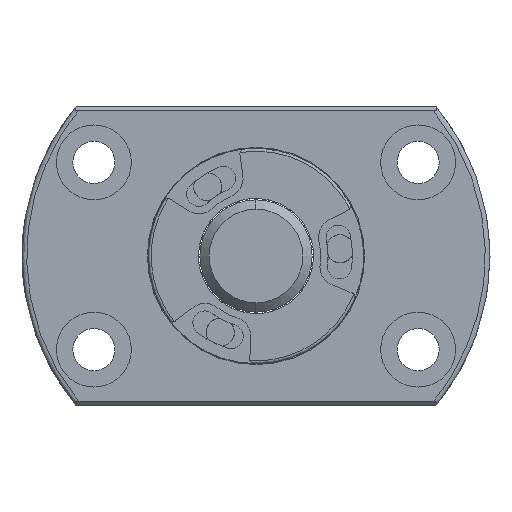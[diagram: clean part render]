
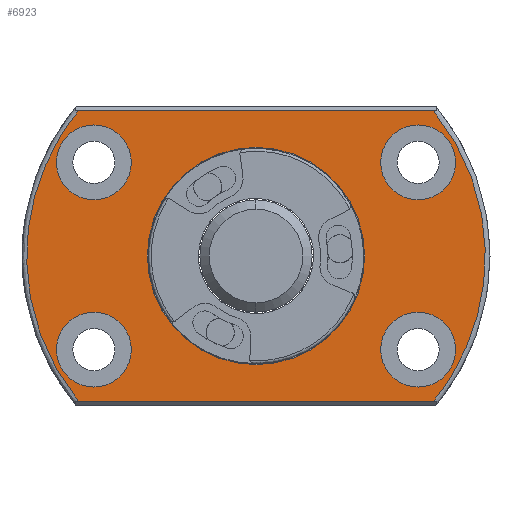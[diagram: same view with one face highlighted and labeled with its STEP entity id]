
A CAD part, left-side view. The second image highlights one B-rep face of the part: STEP entity #6923.
In plain terms, the highlighted planar face has unit normal (-1, 0, 0).
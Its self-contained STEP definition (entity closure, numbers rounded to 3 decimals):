
#85 = EDGE_LOOP ( 'NONE', ( #6823, #7057 ) ) ;
#99 = DIRECTION ( 'NONE',  ( 0., 0., -1. ) ) ;
#135 = EDGE_CURVE ( 'NONE', #4668, #1715, #649, .T. ) ;
#165 = EDGE_LOOP ( 'NONE', ( #788, #5120 ) ) ;
#378 = VECTOR ( 'NONE', #5955, 1000. ) ;
#464 = CARTESIAN_POINT ( 'NONE',  ( 0., -26.668, 6.081 ) ) ;
#478 = AXIS2_PLACEMENT_3D ( 'NONE', #3899, #516, #6748 ) ;
#516 = DIRECTION ( 'NONE',  ( -1., 0., 0. ) ) ;
#552 = DIRECTION ( 'NONE',  ( 0., 0., 1. ) ) ;
#566 = VERTEX_POINT ( 'NONE', #1877 ) ;
#601 =( BOUNDED_CURVE ( )  B_SPLINE_CURVE ( 3, ( #5501, #464, #3780, #4419 ),
 .UNSPECIFIED., .F., .T. ) 
 B_SPLINE_CURVE_WITH_KNOTS ( ( 4, 4 ),
 ( 0., 1. ),
 .UNSPECIFIED. ) 
 CURVE ( )  GEOMETRIC_REPRESENTATION_ITEM ( )  RATIONAL_B_SPLINE_CURVE ( ( 1., 0.85, 0.85, 1. ) ) 
 REPRESENTATION_ITEM ( '' )  );
#649 = CIRCLE ( 'NONE', #6416, 4. ) ;
#744 = CIRCLE ( 'NONE', #5074, 4. ) ;
#775 = AXIS2_PLACEMENT_3D ( 'NONE', #3427, #5736, #3471 ) ;
#788 = ORIENTED_EDGE ( 'NONE', *, *, #3067, .T. ) ;
#812 = CARTESIAN_POINT ( 'NONE',  ( 0., -17.321, 14. ) ) ;
#883 = VERTEX_POINT ( 'NONE', #6830 ) ;
#930 = CARTESIAN_POINT ( 'NONE',  ( 0., -17.321, -10. ) ) ;
#936 = ORIENTED_EDGE ( 'NONE', *, *, #5468, .F. ) ;
#1035 = ORIENTED_EDGE ( 'NONE', *, *, #2969, .T. ) ;
#1101 = VERTEX_POINT ( 'NONE', #2043 ) ;
#1118 = AXIS2_PLACEMENT_3D ( 'NONE', #2019, #4887, #4305 ) ;
#1152 = AXIS2_PLACEMENT_3D ( 'NONE', #6181, #4594, #552 ) ;
#1228 = DIRECTION ( 'NONE',  ( 0., 0., 1. ) ) ;
#1366 =( BOUNDED_CURVE ( )  B_SPLINE_CURVE ( 3, ( #4878, #3220, #4907, #4960 ),
 .UNSPECIFIED., .F., .F. ) 
 B_SPLINE_CURVE_WITH_KNOTS ( ( 4, 4 ),
 ( 0., 1. ),
 .UNSPECIFIED. ) 
 CURVE ( )  GEOMETRIC_REPRESENTATION_ITEM ( )  RATIONAL_B_SPLINE_CURVE ( ( 1., 0.85, 0.85, 1. ) ) 
 REPRESENTATION_ITEM ( '' )  );
#1386 = EDGE_CURVE ( 'NONE', #3975, #2026, #4088, .T. ) ;
#1409 = AXIS2_PLACEMENT_3D ( 'NONE', #2798, #5702, #2846 ) ;
#1468 = DIRECTION ( 'NONE',  ( 0., 0., 1. ) ) ;
#1493 = CARTESIAN_POINT ( 'NONE',  ( 0., 0., 0. ) ) ;
#1527 = CARTESIAN_POINT ( 'NONE',  ( 0., -17.321, -14. ) ) ;
#1715 = VERTEX_POINT ( 'NONE', #812 ) ;
#1722 = AXIS2_PLACEMENT_3D ( 'NONE', #2384, #2411, #99 ) ;
#1751 = VERTEX_POINT ( 'NONE', #2011 ) ;
#1781 = VERTEX_POINT ( 'NONE', #2635 ) ;
#1820 = ORIENTED_EDGE ( 'NONE', *, *, #4244, .F. ) ;
#1877 = CARTESIAN_POINT ( 'NONE',  ( 0., -17.321, -6. ) ) ;
#1910 = CIRCLE ( 'NONE', #1409, 4. ) ;
#1964 = FACE_BOUND ( 'NONE', #3361, .T. ) ;
#1978 = DIRECTION ( 'NONE',  ( -1., 0., 0. ) ) ;
#2011 = CARTESIAN_POINT ( 'NONE',  ( 0., 17.321, -14. ) ) ;
#2019 = CARTESIAN_POINT ( 'NONE',  ( 0., -17.321, -10. ) ) ;
#2022 = DIRECTION ( 'NONE',  ( 1., 0., 0. ) ) ;
#2026 = VERTEX_POINT ( 'NONE', #3420 ) ;
#2043 = CARTESIAN_POINT ( 'NONE',  ( 0., 17.321, 14. ) ) ;
#2102 = ORIENTED_EDGE ( 'NONE', *, *, #3066, .T. ) ;
#2109 = CARTESIAN_POINT ( 'NONE',  ( 0., 17.321, -10. ) ) ;
#2234 = AXIS2_PLACEMENT_3D ( 'NONE', #2721, #3861, #3359 ) ;
#2262 = EDGE_CURVE ( 'NONE', #4936, #6698, #4771, .T. ) ;
#2320 = AXIS2_PLACEMENT_3D ( 'NONE', #1493, #1978, #1468 ) ;
#2374 = VERTEX_POINT ( 'NONE', #4821 ) ;
#2384 = CARTESIAN_POINT ( 'NONE',  ( 0., 0., 0. ) ) ;
#2411 = DIRECTION ( 'NONE',  ( 1., 0., 0. ) ) ;
#2422 = EDGE_CURVE ( 'NONE', #4898, #566, #6681, .T. ) ;
#2632 = LINE ( 'NONE', #3982, #4201 ) ;
#2635 = CARTESIAN_POINT ( 'NONE',  ( 0., 17.321, 6. ) ) ;
#2721 = CARTESIAN_POINT ( 'NONE',  ( 0., 17.321, 10. ) ) ;
#2759 = FACE_BOUND ( 'NONE', #4247, .T. ) ;
#2798 = CARTESIAN_POINT ( 'NONE',  ( 0., 17.321, -10. ) ) ;
#2846 = DIRECTION ( 'NONE',  ( 0., 0., 1. ) ) ;
#2924 = PLANE ( 'NONE',  #1722 ) ;
#2939 = ORIENTED_EDGE ( 'NONE', *, *, #2262, .F. ) ;
#2969 = EDGE_CURVE ( 'NONE', #1101, #1781, #4241, .T. ) ;
#2979 = CIRCLE ( 'NONE', #1118, 4. ) ;
#3066 = EDGE_CURVE ( 'NONE', #1781, #1101, #3888, .T. ) ;
#3067 = EDGE_CURVE ( 'NONE', #1715, #4668, #7095, .T. ) ;
#3069 = CIRCLE ( 'NONE', #478, 11.6 ) ;
#3110 = CARTESIAN_POINT ( 'NONE',  ( 0., 0., -15.5 ) ) ;
#3220 = CARTESIAN_POINT ( 'NONE',  ( 0., 26.668, -6.081 ) ) ;
#3311 = ORIENTED_EDGE ( 'NONE', *, *, #3767, .F. ) ;
#3359 = DIRECTION ( 'NONE',  ( 0., 0., 1. ) ) ;
#3361 = EDGE_LOOP ( 'NONE', ( #5733, #4075 ) ) ;
#3420 = CARTESIAN_POINT ( 'NONE',  ( 0., 18.974, -15.5 ) ) ;
#3427 = CARTESIAN_POINT ( 'NONE',  ( 0., 17.321, 10. ) ) ;
#3471 = DIRECTION ( 'NONE',  ( 0., 0., 1. ) ) ;
#3614 = CARTESIAN_POINT ( 'NONE',  ( 0., -18.974, -15.5 ) ) ;
#3637 = FACE_BOUND ( 'NONE', #85, .T. ) ;
#3767 = EDGE_CURVE ( 'NONE', #5477, #883, #2632, .T. ) ;
#3780 = CARTESIAN_POINT ( 'NONE',  ( 0., -26.668, -6.081 ) ) ;
#3861 = DIRECTION ( 'NONE',  ( 1., 0., 0. ) ) ;
#3888 = CIRCLE ( 'NONE', #775, 4. ) ;
#3897 = FACE_BOUND ( 'NONE', #165, .T. ) ;
#3899 = CARTESIAN_POINT ( 'NONE',  ( 0., 0., 0. ) ) ;
#3916 = DIRECTION ( 'NONE',  ( 0., -1., 0. ) ) ;
#3975 = VERTEX_POINT ( 'NONE', #3614 ) ;
#3982 = CARTESIAN_POINT ( 'NONE',  ( 0., 0., 15.5 ) ) ;
#4004 = EDGE_LOOP ( 'NONE', ( #1035, #2102 ) ) ;
#4039 = EDGE_CURVE ( 'NONE', #566, #4898, #2979, .T. ) ;
#4043 = DIRECTION ( 'NONE',  ( 1., 0., 0. ) ) ;
#4075 = ORIENTED_EDGE ( 'NONE', *, *, #4425, .T. ) ;
#4088 = LINE ( 'NONE', #3110, #378 ) ;
#4201 = VECTOR ( 'NONE', #3916, 1000. ) ;
#4241 = CIRCLE ( 'NONE', #2234, 4. ) ;
#4244 = EDGE_CURVE ( 'NONE', #6698, #4936, #3069, .T. ) ;
#4247 = EDGE_LOOP ( 'NONE', ( #1820, #2939 ) ) ;
#4305 = DIRECTION ( 'NONE',  ( 0., 0., 1. ) ) ;
#4313 = ORIENTED_EDGE ( 'NONE', *, *, #1386, .F. ) ;
#4408 = EDGE_LOOP ( 'NONE', ( #3311, #936, #4313, #6660 ) ) ;
#4419 = CARTESIAN_POINT ( 'NONE',  ( 0., -18.974, -15.5 ) ) ;
#4425 = EDGE_CURVE ( 'NONE', #1751, #2374, #1910, .T. ) ;
#4594 = DIRECTION ( 'NONE',  ( 1., 0., 0. ) ) ;
#4668 = VERTEX_POINT ( 'NONE', #5361 ) ;
#4771 = CIRCLE ( 'NONE', #2320, 11.6 ) ;
#4821 = CARTESIAN_POINT ( 'NONE',  ( 0., 17.321, -6. ) ) ;
#4878 = CARTESIAN_POINT ( 'NONE',  ( 0., 18.974, -15.5 ) ) ;
#4887 = DIRECTION ( 'NONE',  ( 1., 0., 0. ) ) ;
#4898 = VERTEX_POINT ( 'NONE', #1527 ) ;
#4907 = CARTESIAN_POINT ( 'NONE',  ( 0., 26.668, 6.081 ) ) ;
#4936 = VERTEX_POINT ( 'NONE', #5342 ) ;
#4960 = CARTESIAN_POINT ( 'NONE',  ( 0., 18.974, 15.5 ) ) ;
#5074 = AXIS2_PLACEMENT_3D ( 'NONE', #2109, #7052, #5445 ) ;
#5120 = ORIENTED_EDGE ( 'NONE', *, *, #135, .T. ) ;
#5146 = EDGE_CURVE ( 'NONE', #2374, #1751, #744, .T. ) ;
#5188 = AXIS2_PLACEMENT_3D ( 'NONE', #930, #2022, #6017 ) ;
#5342 = CARTESIAN_POINT ( 'NONE',  ( 0., 0., -11.6 ) ) ;
#5361 = CARTESIAN_POINT ( 'NONE',  ( 0., -17.321, 6. ) ) ;
#5391 = FACE_BOUND ( 'NONE', #4004, .T. ) ;
#5445 = DIRECTION ( 'NONE',  ( 0., 0., 1. ) ) ;
#5452 = CARTESIAN_POINT ( 'NONE',  ( 0., 0., 11.6 ) ) ;
#5456 = EDGE_CURVE ( 'NONE', #883, #3975, #601, .T. ) ;
#5468 = EDGE_CURVE ( 'NONE', #2026, #5477, #1366, .T. ) ;
#5477 = VERTEX_POINT ( 'NONE', #7153 ) ;
#5501 = CARTESIAN_POINT ( 'NONE',  ( 0., -18.974, 15.5 ) ) ;
#5702 = DIRECTION ( 'NONE',  ( 1., 0., 0. ) ) ;
#5728 = CARTESIAN_POINT ( 'NONE',  ( 0., -17.321, 10. ) ) ;
#5733 = ORIENTED_EDGE ( 'NONE', *, *, #5146, .T. ) ;
#5736 = DIRECTION ( 'NONE',  ( 1., 0., 0. ) ) ;
#5955 = DIRECTION ( 'NONE',  ( 0., 1., 0. ) ) ;
#6017 = DIRECTION ( 'NONE',  ( 0., 0., 1. ) ) ;
#6171 = FACE_OUTER_BOUND ( 'NONE', #4408, .T. ) ;
#6181 = CARTESIAN_POINT ( 'NONE',  ( 0., -17.321, 10. ) ) ;
#6416 = AXIS2_PLACEMENT_3D ( 'NONE', #5728, #4043, #1228 ) ;
#6660 = ORIENTED_EDGE ( 'NONE', *, *, #5456, .F. ) ;
#6681 = CIRCLE ( 'NONE', #5188, 4. ) ;
#6698 = VERTEX_POINT ( 'NONE', #5452 ) ;
#6748 = DIRECTION ( 'NONE',  ( 0., 0., 1. ) ) ;
#6823 = ORIENTED_EDGE ( 'NONE', *, *, #4039, .T. ) ;
#6830 = CARTESIAN_POINT ( 'NONE',  ( 0., -18.974, 15.5 ) ) ;
#6923 = ADVANCED_FACE ( 'NONE', ( #6171, #1964, #5391, #3897, #3637, #2759 ), #2924, .F. ) ;
#7052 = DIRECTION ( 'NONE',  ( 1., 0., 0. ) ) ;
#7057 = ORIENTED_EDGE ( 'NONE', *, *, #2422, .T. ) ;
#7095 = CIRCLE ( 'NONE', #1152, 4. ) ;
#7153 = CARTESIAN_POINT ( 'NONE',  ( 0., 18.974, 15.5 ) ) ;
